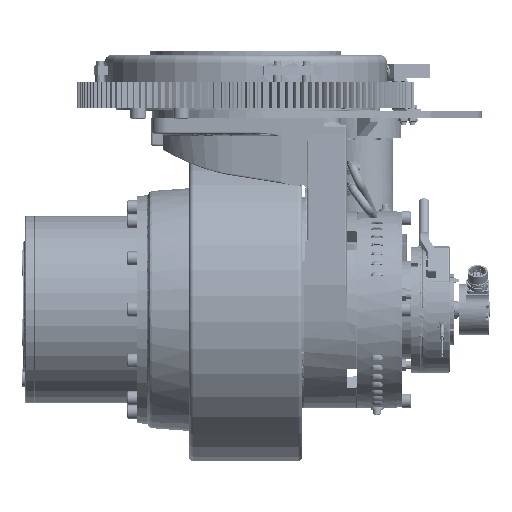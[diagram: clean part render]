
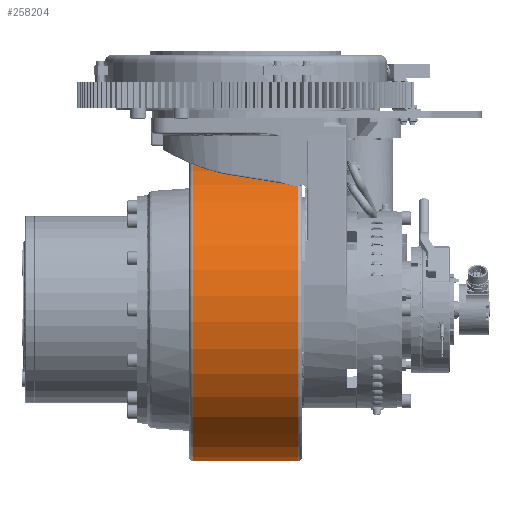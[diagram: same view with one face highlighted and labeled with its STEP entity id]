
A CAD part, front view. The second image highlights one B-rep face of the part: STEP entity #258204.
In plain terms, the highlighted cylindrical face has radius 175 mm (diameter 350 mm), a full revolution.
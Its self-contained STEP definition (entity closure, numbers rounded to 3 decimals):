
#17505=LINE('',#512252,#37700);
#37700=VECTOR('',#340947,175.);
#46701=CYLINDRICAL_SURFACE('',#281706,175.);
#61487=FACE_OUTER_BOUND('',#76804,.T.);
#76804=EDGE_LOOP('',(#206659,#206660,#206661,#206662,#206663,#206664));
#90817=CIRCLE('',#281704,175.);
#90818=CIRCLE('',#281705,175.);
#90819=CIRCLE('',#281707,175.);
#90820=CIRCLE('',#281708,175.);
#110760=VERTEX_POINT('',#512245);
#110761=VERTEX_POINT('',#512247);
#110762=VERTEX_POINT('',#512251);
#110763=VERTEX_POINT('',#512253);
#143772=EDGE_CURVE('',#110760,#110761,#90817,.T.);
#143773=EDGE_CURVE('',#110761,#110760,#90818,.T.);
#143774=EDGE_CURVE('',#110761,#110762,#17505,.T.);
#143775=EDGE_CURVE('',#110763,#110762,#90819,.T.);
#143776=EDGE_CURVE('',#110762,#110763,#90820,.T.);
#206659=ORIENTED_EDGE('',*,*,#143773,.F.);
#206660=ORIENTED_EDGE('',*,*,#143774,.T.);
#206661=ORIENTED_EDGE('',*,*,#143775,.F.);
#206662=ORIENTED_EDGE('',*,*,#143776,.F.);
#206663=ORIENTED_EDGE('',*,*,#143774,.F.);
#206664=ORIENTED_EDGE('',*,*,#143772,.F.);
#258204=ADVANCED_FACE('',(#61487),#46701,.T.);
#281704=AXIS2_PLACEMENT_3D('',#512248,#340941,#340942);
#281705=AXIS2_PLACEMENT_3D('',#512249,#340943,#340944);
#281706=AXIS2_PLACEMENT_3D('',#512250,#340945,#340946);
#281707=AXIS2_PLACEMENT_3D('',#512254,#340948,#340949);
#281708=AXIS2_PLACEMENT_3D('',#512255,#340950,#340951);
#340941=DIRECTION('center_axis',(-1.,0.,0.));
#340942=DIRECTION('ref_axis',(0.,-0.261,-0.965));
#340943=DIRECTION('center_axis',(-1.,0.,0.));
#340944=DIRECTION('ref_axis',(0.,-0.261,-0.965));
#340945=DIRECTION('center_axis',(-1.,0.,0.));
#340946=DIRECTION('ref_axis',(0.,0.261,0.965));
#340947=DIRECTION('',(1.,0.,0.));
#340948=DIRECTION('center_axis',(1.,0.,0.));
#340949=DIRECTION('ref_axis',(0.,-0.261,-0.965));
#340950=DIRECTION('center_axis',(1.,0.,0.));
#340951=DIRECTION('ref_axis',(0.,-0.261,-0.965));
#512245=CARTESIAN_POINT('',(-28.4,168.924,-45.714));
#512247=CARTESIAN_POINT('',(-28.4,-45.714,-168.924));
#512248=CARTESIAN_POINT('Origin',(-28.4,0.,
0.));
#512249=CARTESIAN_POINT('Origin',(-28.4,0.,
0.));
#512250=CARTESIAN_POINT('Origin',(-0.9,0.,
0.));
#512251=CARTESIAN_POINT('',(91.6,-45.714,-168.924));
#512252=CARTESIAN_POINT('',(-0.9,-45.714,-168.924));
#512253=CARTESIAN_POINT('',(91.6,168.924,-45.714));
#512254=CARTESIAN_POINT('Origin',(91.6,0.,
0.));
#512255=CARTESIAN_POINT('Origin',(91.6,0.,
0.));
